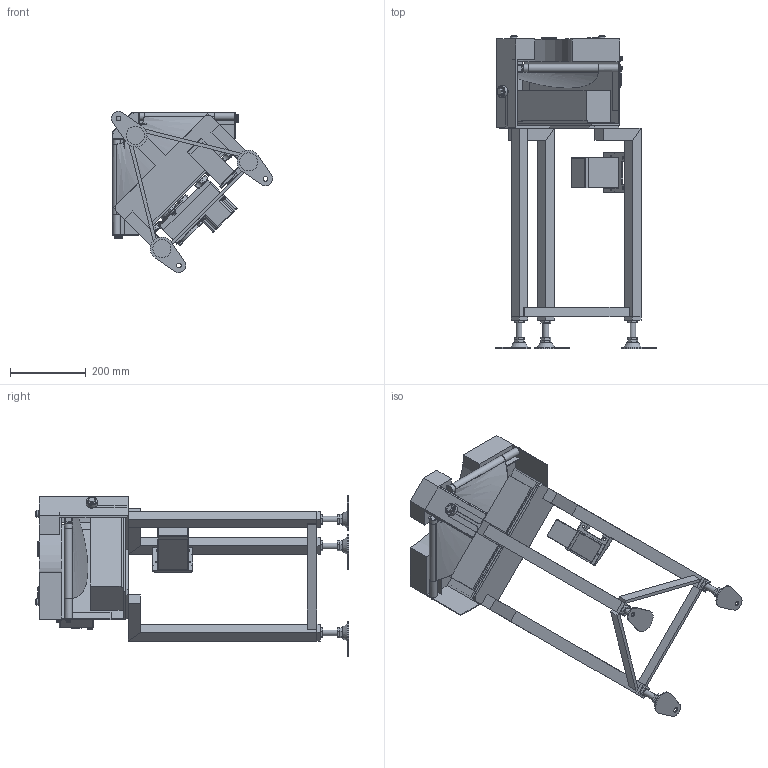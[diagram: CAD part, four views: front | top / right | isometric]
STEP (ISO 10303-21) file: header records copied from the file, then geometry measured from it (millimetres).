
FILE_DESCRIPTION (( 'STEP AP214' ), '1' );
FILE_NAME ('GBC90-HS100-DC-L.STEP', '2023-04-20T01:36:38', ( '' ), ( '' ), 'SwSTEP 2.0', 'SolidWorks 2017', '' );
FILE_SCHEMA (( 'AUTOMOTIVE_DESIGN' ));
Length unit declared in the file: millimetre
Products named in the file (1): GBC90-HS100-DC-L
Bounding box: 426.08 x 827.92 x 426.08 mm (x, y, z)
Volume: 10836155.1 mm3; surface area: 1643732.2 mm2
Topology: 67 solids, 67 shells, 1160 faces, 2651 edges, 1694 vertices
Faces by surface type: plane 735, cylinder 250, cone 91, bspline 59, torus 18, sphere 7
Full cylindrical faces by diameter (mm): 4.2 x4, 4.5 x2, 5 x4, 6 x17, 6.4 x4, 7 x3, 8 x9, 8.4 x2, 9 x8, 9.2 x1, 10 x11, 12 x2, 12.2 x2, 12.5 x7, 13 x9, 15 x4, 15.4 x1, 16 x10, 17 x2, 18 x2, 18.4 x1, 20 x6, 21 x1, 22.2 x1, 24 x1, 25 x1, 30 x1, 51 x1
Entity records: 52567 total; most frequent: CARTESIAN_POINT 14168, DIRECTION 4991, ORIENTED_EDGE 4826, EDGE_CURVE 2413, AXIS2_PLACEMENT_3D 1754, VERTEX_POINT 1640, EDGE_LOOP 1485, VECTOR 1483
